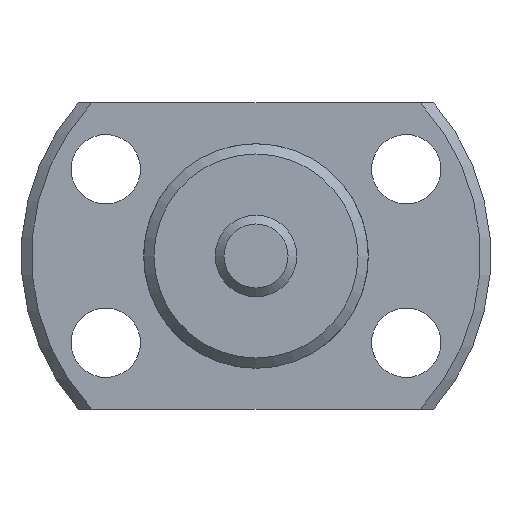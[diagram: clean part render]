
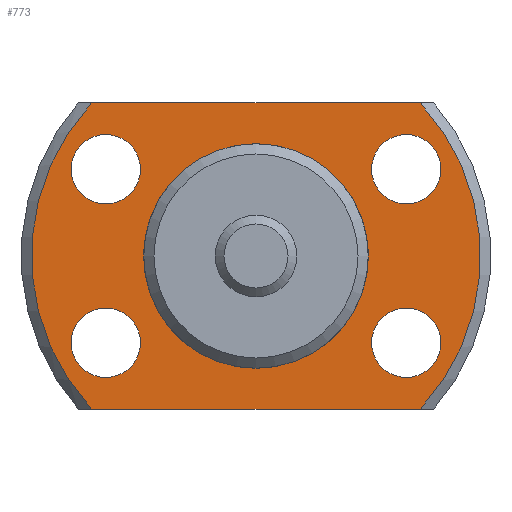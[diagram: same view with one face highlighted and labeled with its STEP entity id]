
A CAD part, left-side view. The second image highlights one B-rep face of the part: STEP entity #773.
In plain terms, the highlighted planar face has unit normal (-1, 0, 0).
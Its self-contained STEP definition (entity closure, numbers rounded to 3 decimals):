
#36=LINE('',#1341,#70);
#37=LINE('',#1345,#71);
#70=VECTOR('',#1058,1000.);
#71=VECTOR('',#1061,1000.);
#211=ORIENTED_EDGE('',*,*,#401,.T.);
#212=ORIENTED_EDGE('',*,*,#402,.T.);
#213=ORIENTED_EDGE('',*,*,#403,.T.);
#214=ORIENTED_EDGE('',*,*,#404,.T.);
#215=ORIENTED_EDGE('',*,*,#390,.F.);
#216=ORIENTED_EDGE('',*,*,#405,.F.);
#217=ORIENTED_EDGE('',*,*,#406,.F.);
#218=ORIENTED_EDGE('',*,*,#407,.F.);
#219=ORIENTED_EDGE('',*,*,#384,.T.);
#384=EDGE_CURVE('',#483,#483,#542,.T.);
#390=EDGE_CURVE('',#488,#489,#545,.T.);
#401=EDGE_CURVE('',#498,#498,#551,.T.);
#402=EDGE_CURVE('',#499,#499,#552,.T.);
#403=EDGE_CURVE('',#500,#500,#553,.T.);
#404=EDGE_CURVE('',#501,#501,#554,.T.);
#405=EDGE_CURVE('',#502,#488,#36,.T.);
#406=EDGE_CURVE('',#503,#502,#555,.T.);
#407=EDGE_CURVE('',#489,#503,#37,.T.);
#483=VERTEX_POINT('',#1284);
#488=VERTEX_POINT('',#1298);
#489=VERTEX_POINT('',#1300);
#498=VERTEX_POINT('',#1334);
#499=VERTEX_POINT('',#1336);
#500=VERTEX_POINT('',#1338);
#501=VERTEX_POINT('',#1340);
#502=VERTEX_POINT('',#1342);
#503=VERTEX_POINT('',#1344);
#542=CIRCLE('',#865,5.25);
#545=CIRCLE('',#869,11.);
#551=CIRCLE('',#880,1.7);
#552=CIRCLE('',#881,1.7);
#553=CIRCLE('',#882,1.7);
#554=CIRCLE('',#883,1.7);
#555=CIRCLE('',#884,11.);
#599=EDGE_LOOP('',(#211));
#600=EDGE_LOOP('',(#212));
#601=EDGE_LOOP('',(#213));
#602=EDGE_LOOP('',(#214));
#603=EDGE_LOOP('',(#215,#216,#217,#218));
#604=EDGE_LOOP('',(#219));
#679=FACE_BOUND('',#599,.T.);
#680=FACE_BOUND('',#600,.T.);
#681=FACE_BOUND('',#601,.T.);
#682=FACE_BOUND('',#602,.T.);
#683=FACE_BOUND('',#603,.T.);
#684=FACE_BOUND('',#604,.T.);
#736=PLANE('',#879);
#773=ADVANCED_FACE('',(#679,#680,#681,#682,#683,#684),#736,.F.);
#865=AXIS2_PLACEMENT_3D('',#1283,#1016,#1017);
#869=AXIS2_PLACEMENT_3D('',#1299,#1026,#1027);
#879=AXIS2_PLACEMENT_3D('',#1332,#1048,#1049);
#880=AXIS2_PLACEMENT_3D('',#1333,#1050,#1051);
#881=AXIS2_PLACEMENT_3D('',#1335,#1052,#1053);
#882=AXIS2_PLACEMENT_3D('',#1337,#1054,#1055);
#883=AXIS2_PLACEMENT_3D('',#1339,#1056,#1057);
#884=AXIS2_PLACEMENT_3D('',#1343,#1059,#1060);
#1016=DIRECTION('',(1.,0.,0.));
#1017=DIRECTION('',(0.,0.,-1.));
#1026=DIRECTION('',(1.,0.,0.));
#1027=DIRECTION('',(0.,0.,-1.));
#1048=DIRECTION('',(1.,0.,0.));
#1049=DIRECTION('',(0.,0.,-1.));
#1050=DIRECTION('',(1.,0.,0.));
#1051=DIRECTION('',(0.,0.,-1.));
#1052=DIRECTION('',(1.,0.,0.));
#1053=DIRECTION('',(0.,0.,-1.));
#1054=DIRECTION('',(1.,0.,0.));
#1055=DIRECTION('',(0.,0.,-1.));
#1056=DIRECTION('',(1.,0.,0.));
#1057=DIRECTION('',(0.,0.,-1.));
#1058=DIRECTION('',(0.,1.,0.));
#1059=DIRECTION('',(1.,0.,0.));
#1060=DIRECTION('',(0.,0.,-1.));
#1061=DIRECTION('',(0.,-1.,0.));
#1283=CARTESIAN_POINT('',(13.,0.,0.));
#1284=CARTESIAN_POINT('',(13.,0.,-5.25));
#1298=CARTESIAN_POINT('',(13.,8.047,-7.5));
#1299=CARTESIAN_POINT('',(13.,0.,0.));
#1300=CARTESIAN_POINT('',(13.,8.047,7.5));
#1332=CARTESIAN_POINT('',(13.,5.25,0.));
#1333=CARTESIAN_POINT('',(13.,-7.361,-4.25));
#1334=CARTESIAN_POINT('',(13.,-7.361,-5.95));
#1335=CARTESIAN_POINT('',(13.,-7.361,4.25));
#1336=CARTESIAN_POINT('',(13.,-7.361,2.55));
#1337=CARTESIAN_POINT('',(13.,7.361,-4.25));
#1338=CARTESIAN_POINT('',(13.,7.361,-5.95));
#1339=CARTESIAN_POINT('',(13.,7.361,4.25));
#1340=CARTESIAN_POINT('',(13.,7.361,2.55));
#1341=CARTESIAN_POINT('',(13.,-16.5,-7.5));
#1342=CARTESIAN_POINT('',(13.,-8.047,-7.5));
#1343=CARTESIAN_POINT('',(13.,0.,0.));
#1344=CARTESIAN_POINT('',(13.,-8.047,7.5));
#1345=CARTESIAN_POINT('',(13.,16.5,7.5));
